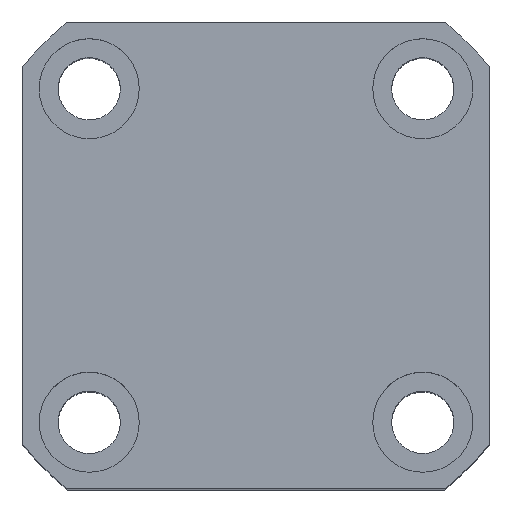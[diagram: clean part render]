
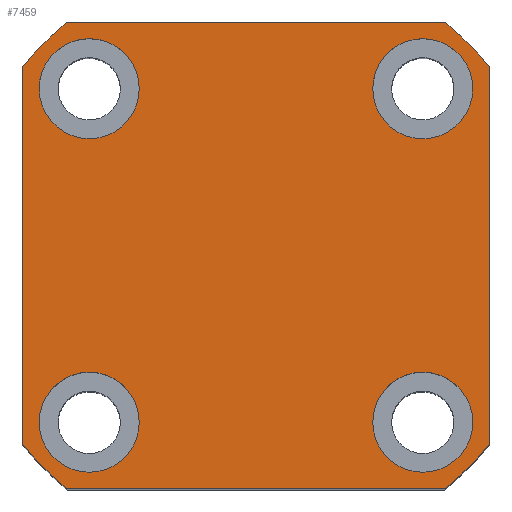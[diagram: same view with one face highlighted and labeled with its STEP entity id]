
A CAD part, top view. The second image highlights one B-rep face of the part: STEP entity #7459.
In plain terms, the highlighted planar face has unit normal (0, 0, 1).
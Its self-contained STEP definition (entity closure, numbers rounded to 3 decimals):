
#132 = EDGE_CURVE ( 'NONE', #12947, #4495, #2439, .T. ) ;
#167 = VERTEX_POINT ( 'NONE', #440 ) ;
#317 = CARTESIAN_POINT ( 'NONE',  ( 21., 16.971, 53. ) ) ;
#440 = CARTESIAN_POINT ( 'NONE',  ( -16.971, -21., 53. ) ) ;
#451 = DIRECTION ( 'NONE',  ( 1., 0., 0. ) ) ;
#483 = CARTESIAN_POINT ( 'NONE',  ( -15., 15.002, 53. ) ) ;
#574 = EDGE_CURVE ( 'NONE', #1747, #167, #8326, .T. ) ;
#638 = VERTEX_POINT ( 'NONE', #11131 ) ;
#669 = AXIS2_PLACEMENT_3D ( 'NONE', #5172, #7349, #904 ) ;
#790 = DIRECTION ( 'NONE',  ( 1., 0., 0. ) ) ;
#869 = EDGE_CURVE ( 'NONE', #5279, #8719, #4448, .T. ) ;
#875 = FACE_OUTER_BOUND ( 'NONE', #7696, .T. ) ;
#904 = DIRECTION ( 'NONE',  ( 1., 0., 0. ) ) ;
#1015 = ORIENTED_EDGE ( 'NONE', *, *, #11248, .F. ) ;
#1214 = CARTESIAN_POINT ( 'NONE',  ( 21., -16.971, 53. ) ) ;
#1272 = CARTESIAN_POINT ( 'NONE',  ( 15., -14.998, 53. ) ) ;
#1284 = VERTEX_POINT ( 'NONE', #1214 ) ;
#1343 = CIRCLE ( 'NONE', #5549, 27. ) ;
#1397 = EDGE_CURVE ( 'NONE', #167, #6740, #6809, .T. ) ;
#1465 = ORIENTED_EDGE ( 'NONE', *, *, #12841, .T. ) ;
#1556 = DIRECTION ( 'NONE',  ( 1., 0., 0. ) ) ;
#1747 = VERTEX_POINT ( 'NONE', #9805 ) ;
#1838 = ORIENTED_EDGE ( 'NONE', *, *, #9464, .T. ) ;
#1921 = DIRECTION ( 'NONE',  ( 0., 0., 1. ) ) ;
#2114 = CARTESIAN_POINT ( 'NONE',  ( 19.5, 15., 53. ) ) ;
#2184 = CARTESIAN_POINT ( 'NONE',  ( -21., 21., 53. ) ) ;
#2348 = DIRECTION ( 'NONE',  ( 1., 0., 0. ) ) ;
#2366 = CARTESIAN_POINT ( 'NONE',  ( 10.5, 15., 53. ) ) ;
#2439 = CIRCLE ( 'NONE', #11094, 4.5 ) ;
#2507 = ORIENTED_EDGE ( 'NONE', *, *, #5425, .T. ) ;
#2510 = CIRCLE ( 'NONE', #6366, 4.5 ) ;
#2521 = EDGE_LOOP ( 'NONE', ( #11818, #5143 ) ) ;
#2582 = CARTESIAN_POINT ( 'NONE',  ( 21., 21., 53. ) ) ;
#2761 = AXIS2_PLACEMENT_3D ( 'NONE', #9234, #2816, #10304 ) ;
#2791 = CARTESIAN_POINT ( 'NONE',  ( -15., 15.002, 53. ) ) ;
#2816 = DIRECTION ( 'NONE',  ( 0., 0., 1. ) ) ;
#3030 = PLANE ( 'NONE',  #669 ) ;
#3092 = CIRCLE ( 'NONE', #5618, 27. ) ;
#3170 = EDGE_LOOP ( 'NONE', ( #1015, #11010 ) ) ;
#3192 = VERTEX_POINT ( 'NONE', #10125 ) ;
#3646 = DIRECTION ( 'NONE',  ( 0., 1., 0. ) ) ;
#3666 = DIRECTION ( 'NONE',  ( 0., 0., 1. ) ) ;
#3690 = CARTESIAN_POINT ( 'NONE',  ( 0., 0., 53. ) ) ;
#3718 = FACE_BOUND ( 'NONE', #2521, .T. ) ;
#3811 = AXIS2_PLACEMENT_3D ( 'NONE', #10092, #3666, #11158 ) ;
#3864 = DIRECTION ( 'NONE',  ( 1., 0., 0. ) ) ;
#3942 = VECTOR ( 'NONE', #6164, 1000. ) ;
#3948 = EDGE_CURVE ( 'NONE', #6236, #3192, #9041, .T. ) ;
#3965 = CARTESIAN_POINT ( 'NONE',  ( 15., 15., 53. ) ) ;
#4086 = AXIS2_PLACEMENT_3D ( 'NONE', #3690, #7428, #10636 ) ;
#4301 = VECTOR ( 'NONE', #9675, 1000. ) ;
#4448 = CIRCLE ( 'NONE', #5993, 4.5 ) ;
#4495 = VERTEX_POINT ( 'NONE', #7278 ) ;
#4856 = ORIENTED_EDGE ( 'NONE', *, *, #7158, .F. ) ;
#4979 = EDGE_CURVE ( 'NONE', #4495, #12947, #6455, .T. ) ;
#5049 = DIRECTION ( 'NONE',  ( 1., 0., 0. ) ) ;
#5143 = ORIENTED_EDGE ( 'NONE', *, *, #869, .F. ) ;
#5150 = CARTESIAN_POINT ( 'NONE',  ( -21., 21., 53. ) ) ;
#5172 = CARTESIAN_POINT ( 'NONE',  ( 0., 0., 53. ) ) ;
#5279 = VERTEX_POINT ( 'NONE', #2366 ) ;
#5425 = EDGE_CURVE ( 'NONE', #3192, #8570, #3092, .T. ) ;
#5549 = AXIS2_PLACEMENT_3D ( 'NONE', #13651, #7242, #790 ) ;
#5618 = AXIS2_PLACEMENT_3D ( 'NONE', #13296, #6887, #451 ) ;
#5631 = EDGE_CURVE ( 'NONE', #8719, #5279, #8122, .T. ) ;
#5727 = DIRECTION ( 'NONE',  ( 1., 0., 0. ) ) ;
#5768 = CIRCLE ( 'NONE', #3811, 4.5 ) ;
#5993 = AXIS2_PLACEMENT_3D ( 'NONE', #11096, #12223, #12418 ) ;
#6164 = DIRECTION ( 'NONE',  ( 1., 0., 0. ) ) ;
#6216 = ORIENTED_EDGE ( 'NONE', *, *, #4979, .F. ) ;
#6236 = VERTEX_POINT ( 'NONE', #9411 ) ;
#6366 = AXIS2_PLACEMENT_3D ( 'NONE', #2791, #10284, #3864 ) ;
#6455 = CIRCLE ( 'NONE', #11854, 4.5 ) ;
#6477 = CARTESIAN_POINT ( 'NONE',  ( -21., -21., 53. ) ) ;
#6517 = DIRECTION ( 'NONE',  ( 0., 0., 1. ) ) ;
#6592 = FACE_BOUND ( 'NONE', #10155, .T. ) ;
#6653 = CARTESIAN_POINT ( 'NONE',  ( 19.5, -14.998, 53. ) ) ;
#6740 = VERTEX_POINT ( 'NONE', #13476 ) ;
#6795 = ORIENTED_EDGE ( 'NONE', *, *, #13881, .F. ) ;
#6809 = LINE ( 'NONE', #6477, #3942 ) ;
#6887 = DIRECTION ( 'NONE',  ( 0., 0., 1. ) ) ;
#6900 = LINE ( 'NONE', #2582, #9403 ) ;
#7012 = ORIENTED_EDGE ( 'NONE', *, *, #7410, .T. ) ;
#7052 = VERTEX_POINT ( 'NONE', #13042 ) ;
#7147 = CARTESIAN_POINT ( 'NONE',  ( -21., 16.971, 53. ) ) ;
#7158 = EDGE_CURVE ( 'NONE', #11393, #7052, #5768, .T. ) ;
#7206 = ORIENTED_EDGE ( 'NONE', *, *, #9628, .T. ) ;
#7234 = CIRCLE ( 'NONE', #11714, 4.5 ) ;
#7242 = DIRECTION ( 'NONE',  ( 0., 0., 1. ) ) ;
#7278 = CARTESIAN_POINT ( 'NONE',  ( 10.5, -14.998, 53. ) ) ;
#7281 = FACE_BOUND ( 'NONE', #3170, .T. ) ;
#7349 = DIRECTION ( 'NONE',  ( 0., 0., 1. ) ) ;
#7410 = EDGE_CURVE ( 'NONE', #12279, #6236, #9748, .T. ) ;
#7428 = DIRECTION ( 'NONE',  ( 0., 0., 1. ) ) ;
#7459 = ADVANCED_FACE ( 'NONE', ( #7281, #6592, #9430, #3718, #875 ), #3030, .T. ) ;
#7696 = EDGE_LOOP ( 'NONE', ( #1838, #7012, #11208, #2507, #1465, #8279, #10831, #7206 ) ) ;
#7985 = CARTESIAN_POINT ( 'NONE',  ( -10.5, 15.002, 53. ) ) ;
#7998 = DIRECTION ( 'NONE',  ( 0., 0., 1. ) ) ;
#8122 = CIRCLE ( 'NONE', #12050, 4.5 ) ;
#8279 = ORIENTED_EDGE ( 'NONE', *, *, #574, .T. ) ;
#8326 = CIRCLE ( 'NONE', #4086, 27. ) ;
#8366 = CARTESIAN_POINT ( 'NONE',  ( 0., 0., 53. ) ) ;
#8482 = VERTEX_POINT ( 'NONE', #7985 ) ;
#8570 = VERTEX_POINT ( 'NONE', #7147 ) ;
#8719 = VERTEX_POINT ( 'NONE', #2114 ) ;
#8790 = DIRECTION ( 'NONE',  ( 0., 0., 1. ) ) ;
#8857 = AXIS2_PLACEMENT_3D ( 'NONE', #8366, #1921, #9437 ) ;
#9041 = LINE ( 'NONE', #5150, #9380 ) ;
#9234 = CARTESIAN_POINT ( 'NONE',  ( -15., -14.998, 53. ) ) ;
#9380 = VECTOR ( 'NONE', #12632, 1000. ) ;
#9403 = VECTOR ( 'NONE', #3646, 1000. ) ;
#9411 = CARTESIAN_POINT ( 'NONE',  ( 16.971, 21., 53. ) ) ;
#9430 = FACE_BOUND ( 'NONE', #10846, .T. ) ;
#9437 = DIRECTION ( 'NONE',  ( 1., 0., 0. ) ) ;
#9464 = EDGE_CURVE ( 'NONE', #1284, #12279, #6900, .T. ) ;
#9628 = EDGE_CURVE ( 'NONE', #6740, #1284, #1343, .T. ) ;
#9675 = DIRECTION ( 'NONE',  ( 0., -1., 0. ) ) ;
#9748 = CIRCLE ( 'NONE', #8857, 27. ) ;
#9805 = CARTESIAN_POINT ( 'NONE',  ( -21., -16.971, 53. ) ) ;
#9865 = ORIENTED_EDGE ( 'NONE', *, *, #132, .F. ) ;
#9971 = EDGE_CURVE ( 'NONE', #638, #8482, #7234, .T. ) ;
#9999 = LINE ( 'NONE', #2184, #4301 ) ;
#10092 = CARTESIAN_POINT ( 'NONE',  ( -15., -14.998, 53. ) ) ;
#10125 = CARTESIAN_POINT ( 'NONE',  ( -16.971, 21., 53. ) ) ;
#10155 = EDGE_LOOP ( 'NONE', ( #4856, #6795 ) ) ;
#10284 = DIRECTION ( 'NONE',  ( 0., 0., 1. ) ) ;
#10304 = DIRECTION ( 'NONE',  ( 1., 0., 0. ) ) ;
#10636 = DIRECTION ( 'NONE',  ( 1., 0., 0. ) ) ;
#10831 = ORIENTED_EDGE ( 'NONE', *, *, #1397, .T. ) ;
#10846 = EDGE_LOOP ( 'NONE', ( #9865, #6216 ) ) ;
#11010 = ORIENTED_EDGE ( 'NONE', *, *, #9971, .F. ) ;
#11094 = AXIS2_PLACEMENT_3D ( 'NONE', #13283, #6517, #5727 ) ;
#11096 = CARTESIAN_POINT ( 'NONE',  ( 15., 15., 53. ) ) ;
#11131 = CARTESIAN_POINT ( 'NONE',  ( -19.5, 15.002, 53. ) ) ;
#11158 = DIRECTION ( 'NONE',  ( 1., 0., 0. ) ) ;
#11208 = ORIENTED_EDGE ( 'NONE', *, *, #3948, .T. ) ;
#11248 = EDGE_CURVE ( 'NONE', #8482, #638, #2510, .T. ) ;
#11393 = VERTEX_POINT ( 'NONE', #12526 ) ;
#11457 = DIRECTION ( 'NONE',  ( 0., 0., 1. ) ) ;
#11714 = AXIS2_PLACEMENT_3D ( 'NONE', #483, #7998, #1556 ) ;
#11818 = ORIENTED_EDGE ( 'NONE', *, *, #5631, .F. ) ;
#11854 = AXIS2_PLACEMENT_3D ( 'NONE', #1272, #8790, #2348 ) ;
#12050 = AXIS2_PLACEMENT_3D ( 'NONE', #3965, #11457, #5049 ) ;
#12223 = DIRECTION ( 'NONE',  ( 0., 0., 1. ) ) ;
#12279 = VERTEX_POINT ( 'NONE', #317 ) ;
#12418 = DIRECTION ( 'NONE',  ( 1., 0., 0. ) ) ;
#12526 = CARTESIAN_POINT ( 'NONE',  ( -10.5, -14.998, 53. ) ) ;
#12632 = DIRECTION ( 'NONE',  ( -1., 0., 0. ) ) ;
#12829 = CIRCLE ( 'NONE', #2761, 4.5 ) ;
#12841 = EDGE_CURVE ( 'NONE', #8570, #1747, #9999, .T. ) ;
#12947 = VERTEX_POINT ( 'NONE', #6653 ) ;
#13042 = CARTESIAN_POINT ( 'NONE',  ( -19.5, -14.998, 53. ) ) ;
#13283 = CARTESIAN_POINT ( 'NONE',  ( 15., -14.998, 53. ) ) ;
#13296 = CARTESIAN_POINT ( 'NONE',  ( 0., 0., 53. ) ) ;
#13476 = CARTESIAN_POINT ( 'NONE',  ( 16.971, -21., 53. ) ) ;
#13651 = CARTESIAN_POINT ( 'NONE',  ( 0., 0., 53. ) ) ;
#13881 = EDGE_CURVE ( 'NONE', #7052, #11393, #12829, .T. ) ;
